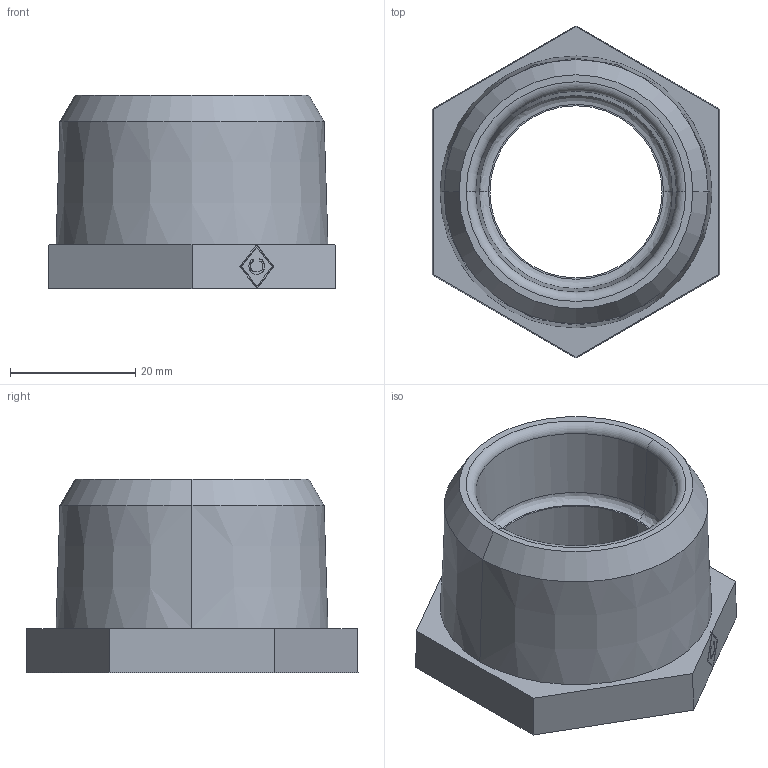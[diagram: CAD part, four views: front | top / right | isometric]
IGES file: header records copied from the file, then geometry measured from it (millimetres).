
Global section: file name: No Iges File Name specified; native system: AutoDesk Inventor R12.0; preprocessor: AutoDesk Inventor Iges Exporter R12.0; date: 20090914.111319; units: millimetre
Bounding box: 46 x 53.12 x 31 mm (x, y, z)
Volume: 24425.7 mm3; surface area: 8949.4 mm2
Topology: 1 solids, 1 shells, 45 faces, 106 edges, 68 vertices
Faces by surface type: plane 23, bspline 10, revolution 6, cone 4, torus 2
